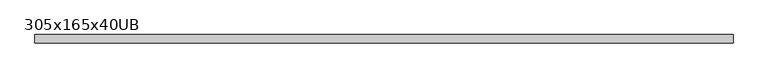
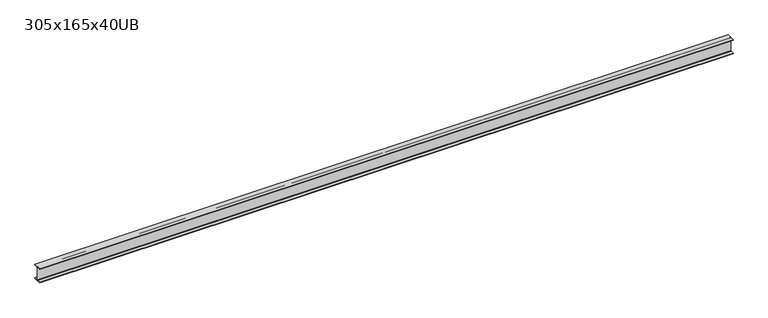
"""IFC4 building model written with IfcOpenShell, lengths in millimetres: beam geometry, UB-通用樑 : 305x165x40UB."""

from ifc_helpers import new_model, si_unit, point, frame, frame_2d, origin, place, context, project, spatial, polyline, circle_curve, trimmed, segment, composite_curve, outline, extrude, source, transform, mapped, element, save


def beam_305x165x40ub_2a107009(model_context):
    return source(origin(), model_context, "Body", "SweptSolid", [
        extrude(outline(composite_curve([segment(polyline([(82.5, -141.5), (82.5, -151.7), (-82.5, -151.7), (-82.5, -141.5), (-11.9, -141.5)]), True, "CONTINUOUS"), segment(trimmed(circle_curve(frame_2d((-11.9, -132.6)), 8.9), [point((-11.9, -141.5))], [point((-3.0, -132.6))], True, "CARTESIAN"), True, "CONTINUOUS"), segment(polyline([(-3.0, -132.6), (-3.0, 132.6)]), True, "CONTINUOUS"), segment(trimmed(circle_curve(frame_2d((-11.9, 132.6)), 8.9), [point((-3.0, 132.6))], [point((-11.9, 141.5))], True, "CARTESIAN"), True, "CONTINUOUS"), segment(polyline([(-11.9, 141.5), (-82.5, 141.5), (-82.5, 151.7), (82.5, 151.7), (82.5, 141.5), (11.9, 141.5)]), True, "CONTINUOUS"), segment(trimmed(circle_curve(frame_2d((11.9, 132.6)), 8.9), [point((11.9, 141.5))], [point((3.0, 132.6))], True, "CARTESIAN"), True, "CONTINUOUS"), segment(polyline([(3.0, 132.6), (3.0, -132.6)]), True, "CONTINUOUS"), segment(trimmed(circle_curve(frame_2d((11.9, -132.6)), 8.9), [point((3.0, -132.6))], [point((11.9, -141.5))], True, "CARTESIAN"), True, "CONTINUOUS"), segment(polyline([(11.9, -141.5), (82.5, -141.5)]), True, "CONTINUOUS")], self_intersect=False)), frame((-7123.342627, 0.0, 0.0), z_axis=(1.0, 0.0, 0.0), x_axis=(0.0, 1.0, 0.0)), (0.0, 0.0, 1.0), 14067.9534849),
    ])


if __name__ == "__main__":
    model = new_model("IFC4")
    model_context = context("Model", 3, world=origin())
    ifc_project = project(units=[si_unit("LENGTHUNIT", "METRE", prefix="MILLI")], contexts=[model_context])
    site = spatial("IfcSite", under=ifc_project)
    building = spatial("IfcBuilding", under=site)
    placement = place(None, origin())
    beam_305x165x40ub_shape = beam_305x165x40ub_2a107009(model_context)
    element("IfcBeam", 1, ObjectType="UB-通用樑 : 305x165x40UB", at=placement, inside=building, context=model_context, shape_type="MappedRepresentation", body=[
        mapped(beam_305x165x40ub_shape, transform((0.0, 0.0, 0.0), x_axis=(1.0, 0.0, 0.0), y_axis=(0.0, 1.0, 0.0), z_axis=(0.0, 0.0, 1.0))),
    ])
    save(model, "model.ifc")
